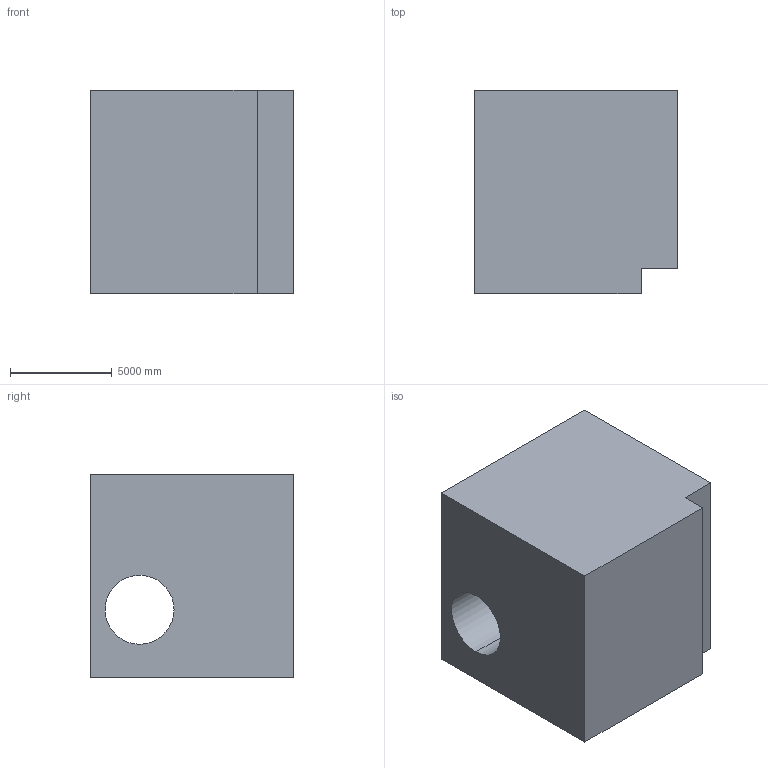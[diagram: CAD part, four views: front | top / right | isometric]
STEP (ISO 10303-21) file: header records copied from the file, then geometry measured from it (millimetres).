
FILE_DESCRIPTION (( 'STEP AP203' ), '1' );
FILE_NAME ('1148.STEP', '2022-08-18T12:57:01', ( 'user' ), ( '' ), 'SwSTEP 2.0', 'SolidWorks 2021', '' );
FILE_SCHEMA (( 'CONFIG_CONTROL_DESIGN' ));
Length unit declared in the file: centimetre
Products named in the file (1): 1148
Bounding box: 10000 x 10000 x 10000 mm (x, y, z)
Volume: 887477235343.7 mm3; surface area: 684043074.9 mm2
Topology: 1 solids, 1 shells, 10 faces, 24 edges, 16 vertices
Faces by surface type: plane 8, cylinder 2
Entity records: 373 total; most frequent: CARTESIAN_POINT 51, DIRECTION 50, ORIENTED_EDGE 48, EDGE_CURVE 24, LINE 20, VECTOR 20, VERTEX_POINT 16, AXIS2_PLACEMENT_3D 15
